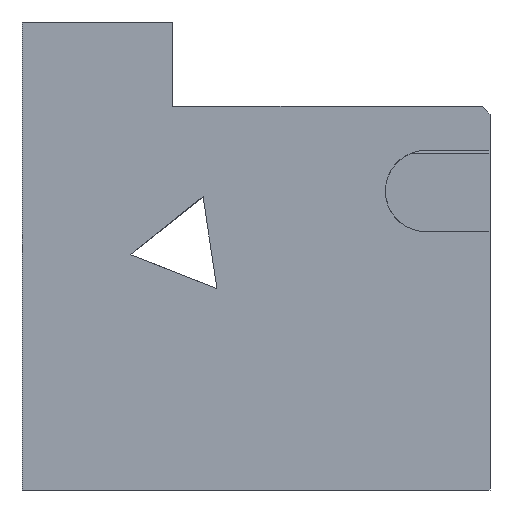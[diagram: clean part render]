
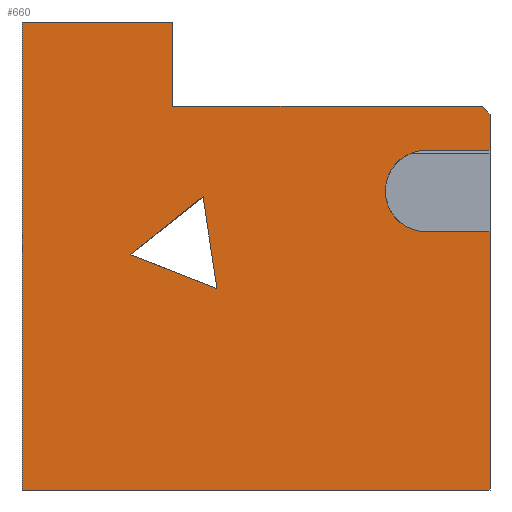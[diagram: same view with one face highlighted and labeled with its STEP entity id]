
A CAD part, front view. The second image highlights one B-rep face of the part: STEP entity #660.
In plain terms, the highlighted planar face has unit normal (0, -1, 0).
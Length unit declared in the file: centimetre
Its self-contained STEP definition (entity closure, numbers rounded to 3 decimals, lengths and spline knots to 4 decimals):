
#1 = ORIENTED_EDGE ( 'NONE', *, *, #1530, .T. ) ;
#9 = CARTESIAN_POINT ( 'NONE',  ( 1000., 0., 0. ) ) ;
#10 = CARTESIAN_POINT ( 'NONE',  ( 803.1262, 0., 1000. ) ) ;
#17 = CARTESIAN_POINT ( 'NONE',  ( 386.7858, 0., 626.8279 ) ) ;
#44 = CARTESIAN_POINT ( 'NONE',  ( 1000., 0., 1000. ) ) ;
#65 = DIRECTION ( 'NONE',  ( 1., 0., 0. ) ) ;
#81 = LINE ( 'NONE', #1006, #1268 ) ;
#92 = CARTESIAN_POINT ( 'NONE',  ( 0., 0., 0. ) ) ;
#115 = VECTOR ( 'NONE', #506, 100. ) ;
#138 = DIRECTION ( 'NONE',  ( 0., -1., 0. ) ) ;
#161 = VERTEX_POINT ( 'NONE', #1163 ) ;
#224 = DIRECTION ( 'NONE',  ( -0.707, 0., 0.707 ) ) ;
#226 = VERTEX_POINT ( 'NONE', #2253 ) ;
#235 = DIRECTION ( 'NONE',  ( 0., 0., 1. ) ) ;
#239 = VECTOR ( 'NONE', #1786, 100. ) ;
#240 = CARTESIAN_POINT ( 'NONE',  ( 0., 0., 1000. ) ) ;
#247 = LINE ( 'NONE', #44, #1342 ) ;
#249 = CARTESIAN_POINT ( 'NONE',  ( 386.7858, 0., 626.8279 ) ) ;
#254 = EDGE_CURVE ( 'NONE', #226, #1734, #1790, .T. ) ;
#313 = CIRCLE ( 'NONE', #1147, 87.1033 ) ;
#357 = LINE ( 'NONE', #875, #1661 ) ;
#371 = LINE ( 'NONE', #1107, #1695 ) ;
#438 = CARTESIAN_POINT ( 'NONE',  ( 1000., 0., 725.8475 ) ) ;
#455 = CARTESIAN_POINT ( 'NONE',  ( 0., 0., 1000. ) ) ;
#465 = ORIENTED_EDGE ( 'NONE', *, *, #1814, .T. ) ;
#466 = CARTESIAN_POINT ( 'NONE',  ( 322.2536, 0., 819.4809 ) ) ;
#474 = VECTOR ( 'NONE', #2283, 100. ) ;
#506 = DIRECTION ( 'NONE',  ( 1., 0., 0. ) ) ;
#562 = EDGE_CURVE ( 'NONE', #1734, #161, #1688, .T. ) ;
#600 = DIRECTION ( 'NONE',  ( 0.15, 0., -0.989 ) ) ;
#613 = CARTESIAN_POINT ( 'NONE',  ( 416.5475, 0., 430.5671 ) ) ;
#627 = EDGE_CURVE ( 'NONE', #2007, #1301, #1757, .T. ) ;
#635 = VERTEX_POINT ( 'NONE', #249 ) ;
#660 = ADVANCED_FACE ( 'NONE', ( #1556, #2316 ), #848, .F. ) ;
#723 = DIRECTION ( 'NONE',  ( -0.931, 0., 0.365 ) ) ;
#746 = ORIENTED_EDGE ( 'NONE', *, *, #2417, .T. ) ;
#766 = LINE ( 'NONE', #10, #1079 ) ;
#804 = DIRECTION ( 'NONE',  ( 0., 1., 0. ) ) ;
#822 = VECTOR ( 'NONE', #65, 100. ) ;
#848 = PLANE ( 'NONE',  #2304 ) ;
#873 = CARTESIAN_POINT ( 'NONE',  ( 1000., 0., 803.1262 ) ) ;
#875 = CARTESIAN_POINT ( 'NONE',  ( 0., 0., 1000. ) ) ;
#879 = VERTEX_POINT ( 'NONE', #873 ) ;
#910 = DIRECTION ( 'NONE',  ( 0., 0., -1. ) ) ;
#934 = CARTESIAN_POINT ( 'NONE',  ( 231.6998, 0., 502.9231 ) ) ;
#957 = CARTESIAN_POINT ( 'NONE',  ( 1000., 0., 725.8475 ) ) ;
#963 = CARTESIAN_POINT ( 'NONE',  ( 322.2536, 0., 819.4809 ) ) ;
#966 = ORIENTED_EDGE ( 'NONE', *, *, #1088, .T. ) ;
#973 = LINE ( 'NONE', #613, #1265 ) ;
#1006 = CARTESIAN_POINT ( 'NONE',  ( 863.6223, 0., 551.6409 ) ) ;
#1015 = DIRECTION ( 'NONE',  ( 0., 0., -1. ) ) ;
#1017 = CARTESIAN_POINT ( 'NONE',  ( 1000., 0., 1000. ) ) ;
#1019 = VERTEX_POINT ( 'NONE', #2272 ) ;
#1030 = LINE ( 'NONE', #17, #474 ) ;
#1044 = VECTOR ( 'NONE', #723, 100. ) ;
#1048 = VERTEX_POINT ( 'NONE', #1212 ) ;
#1049 = DIRECTION ( 'NONE',  ( 1., 0., 0. ) ) ;
#1079 = VECTOR ( 'NONE', #224, 100. ) ;
#1088 = EDGE_CURVE ( 'NONE', #1019, #635, #1030, .T. ) ;
#1107 = CARTESIAN_POINT ( 'NONE',  ( 0., 0., 0. ) ) ;
#1129 = LINE ( 'NONE', #934, #1044 ) ;
#1135 = EDGE_CURVE ( 'NONE', #635, #1847, #973, .T. ) ;
#1147 = AXIS2_PLACEMENT_3D ( 'NONE', #2268, #138, #910 ) ;
#1163 = CARTESIAN_POINT ( 'NONE',  ( 322.2536, 0., 819.4809 ) ) ;
#1178 = ORIENTED_EDGE ( 'NONE', *, *, #1620, .T. ) ;
#1212 = CARTESIAN_POINT ( 'NONE',  ( 983.6453, 0., 819.4809 ) ) ;
#1265 = VECTOR ( 'NONE', #600, 100. ) ;
#1268 = VECTOR ( 'NONE', #1049, 100. ) ;
#1288 = ORIENTED_EDGE ( 'NONE', *, *, #1332, .F. ) ;
#1301 = VERTEX_POINT ( 'NONE', #9 ) ;
#1312 = LINE ( 'NONE', #957, #1466 ) ;
#1327 = CARTESIAN_POINT ( 'NONE',  ( 322.2536, 0., 1000. ) ) ;
#1332 = EDGE_CURVE ( 'NONE', #2312, #2007, #81, .T. ) ;
#1342 = VECTOR ( 'NONE', #1015, 100. ) ;
#1360 = CARTESIAN_POINT ( 'NONE',  ( 416.5475, 0., 430.5671 ) ) ;
#1377 = VERTEX_POINT ( 'NONE', #92 ) ;
#1402 = ORIENTED_EDGE ( 'NONE', *, *, #627, .F. ) ;
#1442 = DIRECTION ( 'NONE',  ( 1., 0., 0. ) ) ;
#1466 = VECTOR ( 'NONE', #2069, 100. ) ;
#1530 = EDGE_CURVE ( 'NONE', #1377, #1301, #371, .T. ) ;
#1556 = FACE_BOUND ( 'NONE', #1578, .T. ) ;
#1569 = CARTESIAN_POINT ( 'NONE',  ( 1000., 0., 551.6409 ) ) ;
#1578 = EDGE_LOOP ( 'NONE', ( #966, #2175, #746 ) ) ;
#1620 = EDGE_CURVE ( 'NONE', #226, #1377, #357, .T. ) ;
#1624 = LINE ( 'NONE', #466, #115 ) ;
#1638 = CARTESIAN_POINT ( 'NONE',  ( 863.6223, 0., 725.8475 ) ) ;
#1661 = VECTOR ( 'NONE', #2385, 100. ) ;
#1688 = LINE ( 'NONE', #963, #2029 ) ;
#1695 = VECTOR ( 'NONE', #1442, 100. ) ;
#1734 = VERTEX_POINT ( 'NONE', #1327 ) ;
#1757 = LINE ( 'NONE', #1017, #239 ) ;
#1773 = ORIENTED_EDGE ( 'NONE', *, *, #2275, .F. ) ;
#1786 = DIRECTION ( 'NONE',  ( 0., 0., -1. ) ) ;
#1790 = LINE ( 'NONE', #240, #822 ) ;
#1814 = EDGE_CURVE ( 'NONE', #879, #1048, #766, .T. ) ;
#1847 = VERTEX_POINT ( 'NONE', #1360 ) ;
#1850 = EDGE_LOOP ( 'NONE', ( #465, #2320, #2067, #1979, #1178, #1, #1402, #1288, #2302, #1773, #2324 ) ) ;
#1979 = ORIENTED_EDGE ( 'NONE', *, *, #254, .F. ) ;
#2007 = VERTEX_POINT ( 'NONE', #1569 ) ;
#2029 = VECTOR ( 'NONE', #2235, 100. ) ;
#2044 = CARTESIAN_POINT ( 'NONE',  ( 863.6223, 0., 551.6409 ) ) ;
#2067 = ORIENTED_EDGE ( 'NONE', *, *, #562, .F. ) ;
#2069 = DIRECTION ( 'NONE',  ( -1., 0., 0. ) ) ;
#2081 = VERTEX_POINT ( 'NONE', #438 ) ;
#2091 = EDGE_CURVE ( 'NONE', #879, #2081, #247, .T. ) ;
#2148 = VERTEX_POINT ( 'NONE', #1638 ) ;
#2175 = ORIENTED_EDGE ( 'NONE', *, *, #1135, .T. ) ;
#2215 = EDGE_CURVE ( 'NONE', #161, #1048, #1624, .T. ) ;
#2235 = DIRECTION ( 'NONE',  ( 0., 0., -1. ) ) ;
#2253 = CARTESIAN_POINT ( 'NONE',  ( 0., 0., 1000. ) ) ;
#2268 = CARTESIAN_POINT ( 'NONE',  ( 863.6223, 0., 638.7442 ) ) ;
#2272 = CARTESIAN_POINT ( 'NONE',  ( 231.6998, 0., 502.9231 ) ) ;
#2275 = EDGE_CURVE ( 'NONE', #2081, #2148, #1312, .T. ) ;
#2283 = DIRECTION ( 'NONE',  ( 0.781, 0., 0.624 ) ) ;
#2302 = ORIENTED_EDGE ( 'NONE', *, *, #2343, .F. ) ;
#2304 = AXIS2_PLACEMENT_3D ( 'NONE', #455, #804, #235 ) ;
#2312 = VERTEX_POINT ( 'NONE', #2044 ) ;
#2316 = FACE_OUTER_BOUND ( 'NONE', #1850, .T. ) ;
#2320 = ORIENTED_EDGE ( 'NONE', *, *, #2215, .F. ) ;
#2324 = ORIENTED_EDGE ( 'NONE', *, *, #2091, .F. ) ;
#2343 = EDGE_CURVE ( 'NONE', #2148, #2312, #313, .T. ) ;
#2385 = DIRECTION ( 'NONE',  ( 0., 0., -1. ) ) ;
#2417 = EDGE_CURVE ( 'NONE', #1847, #1019, #1129, .T. ) ;
